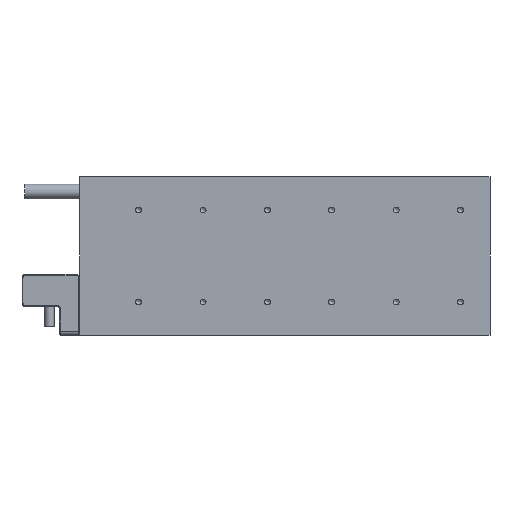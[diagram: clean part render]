
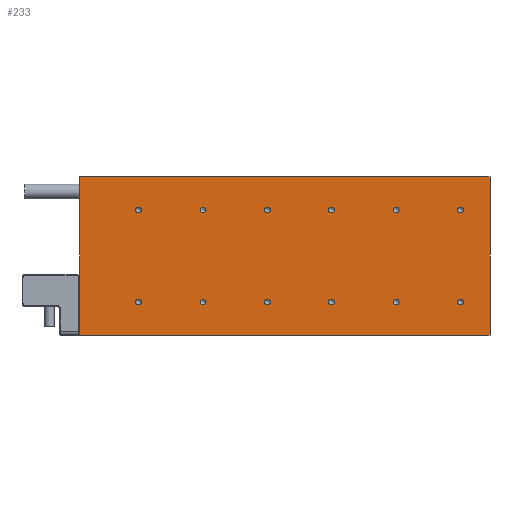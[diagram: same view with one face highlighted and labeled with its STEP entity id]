
A CAD part, front view. The second image highlights one B-rep face of the part: STEP entity #233.
In plain terms, the highlighted planar face has unit normal (0, -1, 0).
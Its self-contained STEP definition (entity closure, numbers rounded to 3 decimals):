
#233 = ADVANCED_FACE( '', ( #505, #506, #507, #508, #509, #510, #511, #512, #513, #514, #515, #516, #517 ), #518, .T. );
#505 = FACE_BOUND( '', #847, .T. );
#506 = FACE_BOUND( '', #848, .T. );
#507 = FACE_BOUND( '', #849, .T. );
#508 = FACE_BOUND( '', #850, .T. );
#509 = FACE_BOUND( '', #851, .T. );
#510 = FACE_BOUND( '', #852, .T. );
#511 = FACE_BOUND( '', #853, .T. );
#512 = FACE_BOUND( '', #854, .T. );
#513 = FACE_BOUND( '', #855, .T. );
#514 = FACE_BOUND( '', #856, .T. );
#515 = FACE_BOUND( '', #857, .T. );
#516 = FACE_BOUND( '', #858, .T. );
#517 = FACE_OUTER_BOUND( '', #859, .T. );
#518 = PLANE( '', #860 );
#847 = EDGE_LOOP( '', ( #1325 ) );
#848 = EDGE_LOOP( '', ( #1326 ) );
#849 = EDGE_LOOP( '', ( #1327 ) );
#850 = EDGE_LOOP( '', ( #1328 ) );
#851 = EDGE_LOOP( '', ( #1329 ) );
#852 = EDGE_LOOP( '', ( #1330 ) );
#853 = EDGE_LOOP( '', ( #1331 ) );
#854 = EDGE_LOOP( '', ( #1332 ) );
#855 = EDGE_LOOP( '', ( #1333 ) );
#856 = EDGE_LOOP( '', ( #1334 ) );
#857 = EDGE_LOOP( '', ( #1335 ) );
#858 = EDGE_LOOP( '', ( #1336 ) );
#859 = EDGE_LOOP( '', ( #1337, #1338, #1339, #1340 ) );
#860 = AXIS2_PLACEMENT_3D( '', #1341, #1342, #1343 );
#1325 = ORIENTED_EDGE( '', *, *, #1719, .T. );
#1326 = ORIENTED_EDGE( '', *, *, #1804, .T. );
#1327 = ORIENTED_EDGE( '', *, *, #1828, .T. );
#1328 = ORIENTED_EDGE( '', *, *, #1829, .T. );
#1329 = ORIENTED_EDGE( '', *, *, #1783, .T. );
#1330 = ORIENTED_EDGE( '', *, *, #1830, .T. );
#1331 = ORIENTED_EDGE( '', *, *, #1831, .T. );
#1332 = ORIENTED_EDGE( '', *, *, #1813, .T. );
#1333 = ORIENTED_EDGE( '', *, *, #1832, .T. );
#1334 = ORIENTED_EDGE( '', *, *, #1721, .T. );
#1335 = ORIENTED_EDGE( '', *, *, #1833, .T. );
#1336 = ORIENTED_EDGE( '', *, *, #1834, .T. );
#1337 = ORIENTED_EDGE( '', *, *, #1835, .T. );
#1338 = ORIENTED_EDGE( '', *, *, #1836, .T. );
#1339 = ORIENTED_EDGE( '', *, *, #1710, .T. );
#1340 = ORIENTED_EDGE( '', *, *, #1810, .T. );
#1341 = CARTESIAN_POINT( '', ( 0., 0., 0. ) );
#1342 = DIRECTION( '', ( 0., -1., 0. ) );
#1343 = DIRECTION( '', ( 0., 0., -1. ) );
#1710 = EDGE_CURVE( '', #1960, #1961, #1962, .T. );
#1719 = EDGE_CURVE( '', #1976, #1976, #1977, .T. );
#1721 = EDGE_CURVE( '', #1979, #1979, #1980, .T. );
#1783 = EDGE_CURVE( '', #2073, #2073, #2074, .T. );
#1804 = EDGE_CURVE( '', #2102, #2102, #2103, .T. );
#1810 = EDGE_CURVE( '', #1961, #2111, #2112, .T. );
#1813 = EDGE_CURVE( '', #2115, #2115, #2116, .T. );
#1828 = EDGE_CURVE( '', #2132, #2132, #2133, .T. );
#1829 = EDGE_CURVE( '', #2134, #2134, #2135, .T. );
#1830 = EDGE_CURVE( '', #2136, #2136, #2137, .T. );
#1831 = EDGE_CURVE( '', #2138, #2138, #2139, .T. );
#1832 = EDGE_CURVE( '', #2140, #2140, #2141, .T. );
#1833 = EDGE_CURVE( '', #2142, #2142, #2143, .T. );
#1834 = EDGE_CURVE( '', #2144, #2144, #2145, .T. );
#1835 = EDGE_CURVE( '', #2111, #2146, #2147, .T. );
#1836 = EDGE_CURVE( '', #2146, #1960, #2148, .T. );
#1960 = VERTEX_POINT( '', #2297 );
#1961 = VERTEX_POINT( '', #2298 );
#1962 = LINE( '', #2299, #2300 );
#1976 = VERTEX_POINT( '', #2317 );
#1977 = CIRCLE( '', #2318, 1.621 );
#1979 = VERTEX_POINT( '', #2320 );
#1980 = CIRCLE( '', #2321, 1.621 );
#2073 = VERTEX_POINT( '', #2442 );
#2074 = CIRCLE( '', #2443, 1.621 );
#2102 = VERTEX_POINT( '', #2477 );
#2103 = CIRCLE( '', #2478, 1.621 );
#2111 = VERTEX_POINT( '', #2489 );
#2112 = LINE( '', #2490, #2491 );
#2115 = VERTEX_POINT( '', #2495 );
#2116 = CIRCLE( '', #2496, 1.621 );
#2132 = VERTEX_POINT( '', #2514 );
#2133 = CIRCLE( '', #2515, 1.621 );
#2134 = VERTEX_POINT( '', #2516 );
#2135 = CIRCLE( '', #2517, 1.621 );
#2136 = VERTEX_POINT( '', #2518 );
#2137 = CIRCLE( '', #2519, 1.621 );
#2138 = VERTEX_POINT( '', #2520 );
#2139 = CIRCLE( '', #2521, 1.621 );
#2140 = VERTEX_POINT( '', #2522 );
#2141 = CIRCLE( '', #2523, 1.621 );
#2142 = VERTEX_POINT( '', #2524 );
#2143 = CIRCLE( '', #2525, 1.621 );
#2144 = VERTEX_POINT( '', #2526 );
#2145 = CIRCLE( '', #2527, 1.621 );
#2146 = VERTEX_POINT( '', #2528 );
#2147 = LINE( '', #2529, #2530 );
#2148 = LINE( '', #2531, #2532 );
#2297 = CARTESIAN_POINT( '', ( 164., 0., -43. ) );
#2298 = CARTESIAN_POINT( '', ( 164., 0., 43. ) );
#2299 = CARTESIAN_POINT( '', ( 164., 0., -43. ) );
#2300 = VECTOR( '', #2692, 1000. );
#2317 = CARTESIAN_POINT( '', ( 148., 0., -26.621 ) );
#2318 = AXIS2_PLACEMENT_3D( '', #2705, #2706, #2707 );
#2320 = CARTESIAN_POINT( '', ( 8., 0., 23.379 ) );
#2321 = AXIS2_PLACEMENT_3D( '', #2708, #2709, #2710 );
#2442 = CARTESIAN_POINT( '', ( 78., 0., -26.621 ) );
#2443 = AXIS2_PLACEMENT_3D( '', #2790, #2791, #2792 );
#2477 = CARTESIAN_POINT( '', ( 148., 0., 23.379 ) );
#2478 = AXIS2_PLACEMENT_3D( '', #2817, #2818, #2819 );
#2489 = CARTESIAN_POINT( '', ( -59., 0., 43. ) );
#2490 = CARTESIAN_POINT( '', ( 59., 0., 43. ) );
#2491 = VECTOR( '', #2823, 1000. );
#2495 = CARTESIAN_POINT( '', ( 43., 0., 23.379 ) );
#2496 = AXIS2_PLACEMENT_3D( '', #2825, #2826, #2827 );
#2514 = CARTESIAN_POINT( '', ( 113., 0., -26.621 ) );
#2515 = AXIS2_PLACEMENT_3D( '', #2839, #2840, #2841 );
#2516 = CARTESIAN_POINT( '', ( 113., 0., 23.379 ) );
#2517 = AXIS2_PLACEMENT_3D( '', #2842, #2843, #2844 );
#2518 = CARTESIAN_POINT( '', ( 78., 0., 23.379 ) );
#2519 = AXIS2_PLACEMENT_3D( '', #2845, #2846, #2847 );
#2520 = CARTESIAN_POINT( '', ( 43., 0., -26.621 ) );
#2521 = AXIS2_PLACEMENT_3D( '', #2848, #2849, #2850 );
#2522 = CARTESIAN_POINT( '', ( 8., 0., -26.621 ) );
#2523 = AXIS2_PLACEMENT_3D( '', #2851, #2852, #2853 );
#2524 = CARTESIAN_POINT( '', ( -27., 0., -26.621 ) );
#2525 = AXIS2_PLACEMENT_3D( '', #2854, #2855, #2856 );
#2526 = CARTESIAN_POINT( '', ( -27., 0., 23.379 ) );
#2527 = AXIS2_PLACEMENT_3D( '', #2857, #2858, #2859 );
#2528 = CARTESIAN_POINT( '', ( -59., 0., -43. ) );
#2529 = CARTESIAN_POINT( '', ( -59., 0., 43. ) );
#2530 = VECTOR( '', #2860, 1000. );
#2531 = CARTESIAN_POINT( '', ( -59., 0., -43. ) );
#2532 = VECTOR( '', #2861, 1000. );
#2692 = DIRECTION( '', ( 0., 0., 1. ) );
#2705 = CARTESIAN_POINT( '', ( 148., 0., -25. ) );
#2706 = DIRECTION( '', ( 0., 1., 0. ) );
#2707 = DIRECTION( '', ( 0., 0., -1. ) );
#2708 = CARTESIAN_POINT( '', ( 8., 0., 25. ) );
#2709 = DIRECTION( '', ( 0., 1., 0. ) );
#2710 = DIRECTION( '', ( 0., 0., -1. ) );
#2790 = CARTESIAN_POINT( '', ( 78., 0., -25. ) );
#2791 = DIRECTION( '', ( 0., 1., 0. ) );
#2792 = DIRECTION( '', ( 0., 0., -1. ) );
#2817 = CARTESIAN_POINT( '', ( 148., 0., 25. ) );
#2818 = DIRECTION( '', ( 0., 1., 0. ) );
#2819 = DIRECTION( '', ( 0., 0., -1. ) );
#2823 = DIRECTION( '', ( -1., 0., 0. ) );
#2825 = CARTESIAN_POINT( '', ( 43., 0., 25. ) );
#2826 = DIRECTION( '', ( 0., 1., 0. ) );
#2827 = DIRECTION( '', ( 0., 0., -1. ) );
#2839 = CARTESIAN_POINT( '', ( 113., 0., -25. ) );
#2840 = DIRECTION( '', ( 0., 1., 0. ) );
#2841 = DIRECTION( '', ( 0., 0., -1. ) );
#2842 = CARTESIAN_POINT( '', ( 113., 0., 25. ) );
#2843 = DIRECTION( '', ( 0., 1., 0. ) );
#2844 = DIRECTION( '', ( 0., 0., -1. ) );
#2845 = CARTESIAN_POINT( '', ( 78., 0., 25. ) );
#2846 = DIRECTION( '', ( 0., 1., 0. ) );
#2847 = DIRECTION( '', ( 0., 0., -1. ) );
#2848 = CARTESIAN_POINT( '', ( 43., 0., -25. ) );
#2849 = DIRECTION( '', ( 0., 1., 0. ) );
#2850 = DIRECTION( '', ( 0., 0., -1. ) );
#2851 = CARTESIAN_POINT( '', ( 8., 0., -25. ) );
#2852 = DIRECTION( '', ( 0., 1., 0. ) );
#2853 = DIRECTION( '', ( 0., 0., -1. ) );
#2854 = CARTESIAN_POINT( '', ( -27., 0., -25. ) );
#2855 = DIRECTION( '', ( 0., 1., 0. ) );
#2856 = DIRECTION( '', ( 0., 0., -1. ) );
#2857 = CARTESIAN_POINT( '', ( -27., 0., 25. ) );
#2858 = DIRECTION( '', ( 0., 1., 0. ) );
#2859 = DIRECTION( '', ( 0., 0., -1. ) );
#2860 = DIRECTION( '', ( 0., 0., -1. ) );
#2861 = DIRECTION( '', ( 1., 0., 0. ) );
